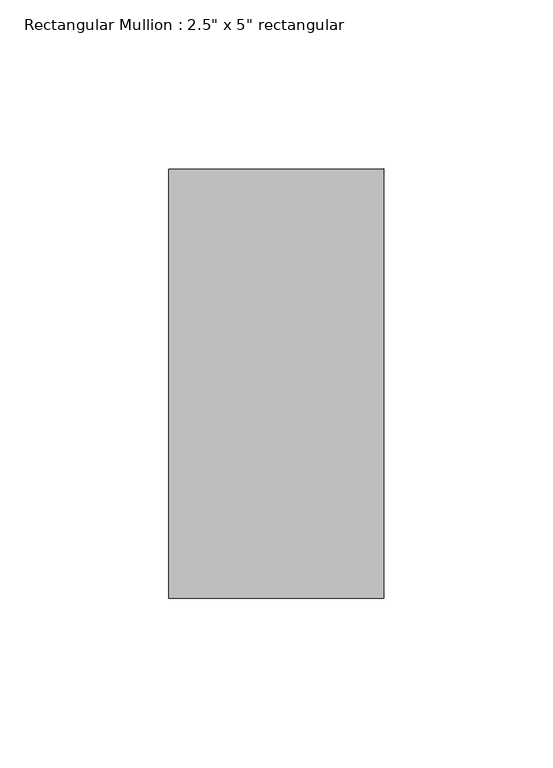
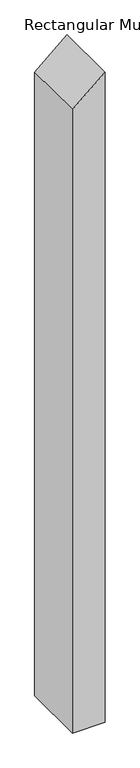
"""IFC4 building model written with IfcOpenShell, lengths in millimetres: member geometry."""

from ifc_helpers import new_model, si_unit, frame, origin, place, context, project, spatial, polyline, outline, extrude, source, transform, mapped, element, save


def member_da74e393(model_context):
    return source(origin(), model_context, "Body", "SweptSolid", [
        extrude(outline(polyline([(0.0, 0.0), (-54.4577288, -63.5), (-1339.4646079, -63.5), (-1339.4646079, 0.0), (0.0, 0.0)])), frame((0.0, -63.5, 0.0), z_axis=(0.0, 1.0, 0.0), x_axis=(0.0, 0.0, 1.0)), (0.0, 0.0, 1.0), 127.0),
    ])


if __name__ == "__main__":
    model = new_model("IFC4")
    model_context = context("Model", 3, world=origin())
    ifc_project = project(units=[si_unit("LENGTHUNIT", "METRE", prefix="MILLI")], contexts=[model_context])
    site = spatial("IfcSite", under=ifc_project)
    building = spatial("IfcBuilding", under=site)
    placement = place(None, origin())
    member_shape = member_da74e393(model_context)
    element("IfcMember", 1, ObjectType="Rectangular Mullion : 2.5\" x 5\" rectangular", at=placement, inside=building, context=model_context, shape_type="MappedRepresentation", body=[
        mapped(member_shape, transform((0.0, 0.0, 0.0), x_axis=(1.0, 0.0, 0.0), y_axis=(0.0, 1.0, 0.0), z_axis=(0.0, 0.0, 1.0))),
    ])
    save(model, "model.ifc")
